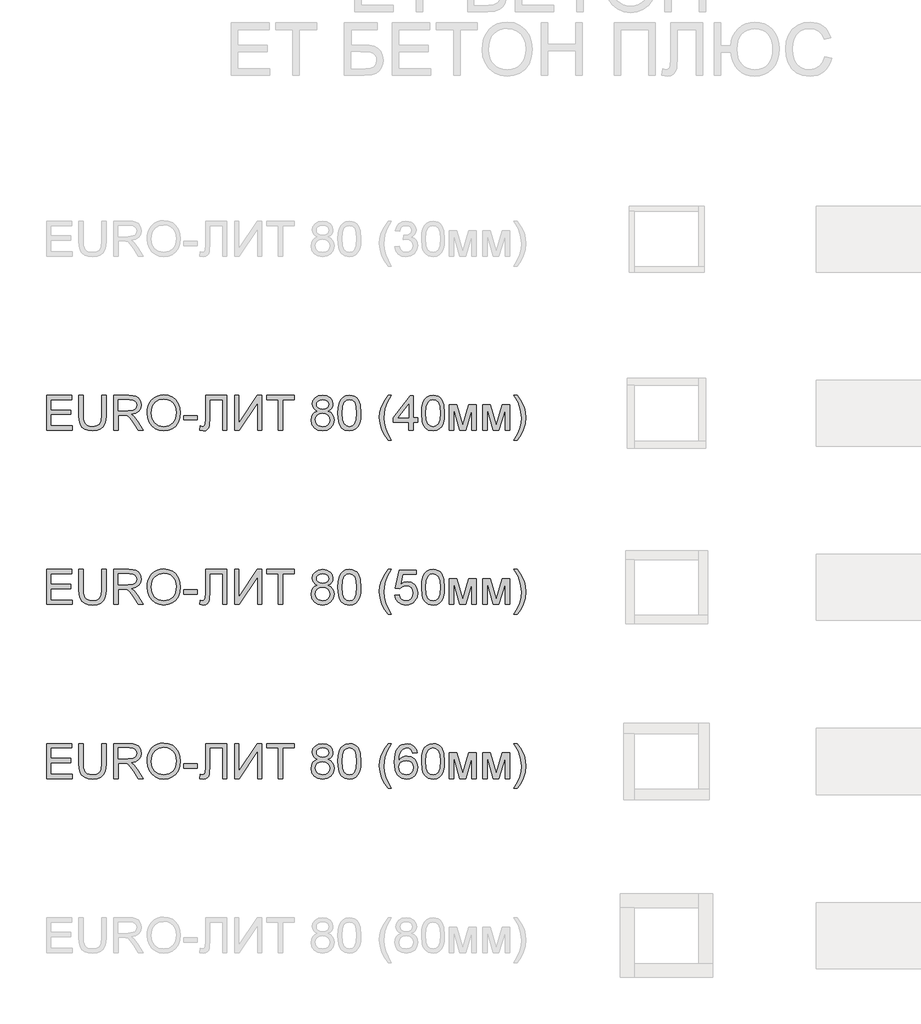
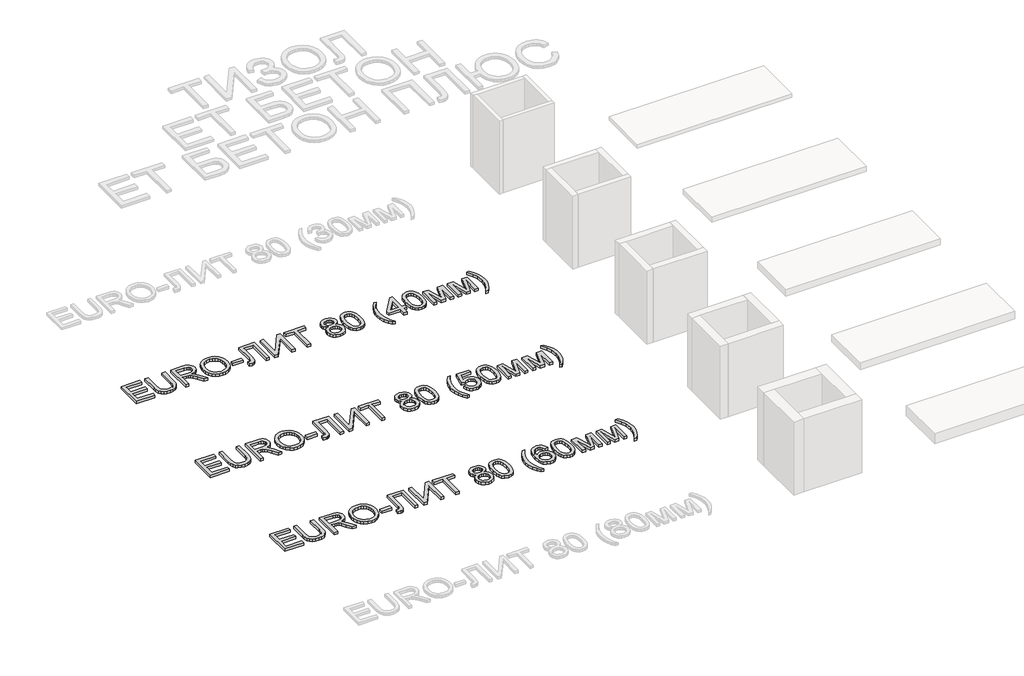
# One storey, part 20 of 35: 3 proxies.
"""IFC4 building model written with IfcOpenShell, lengths in millimetres."""

from ifc_helpers import new_model, si_unit, origin, origin_with_axes, place, context, project, spatial, polyline, outline, extrude, element, save

model = new_model("IFC4")

# Units and contexts
model_context = context("Model", 3, world=origin())
ifc_project = project(units=[si_unit("LENGTHUNIT", "METRE", prefix="MILLI")], contexts=[model_context])

# Site, building, storey
site = spatial("IfcSite", under=ifc_project)
building = spatial("IfcBuilding", under=site)
storey = spatial("IfcBuildingStorey", under=building, Name="Этаж 01", Elevation=0.0)

# Proxies
placement = place(None, origin())
element("IfcBuildingElementProxy", 1, Name="400 мм Arial", ObjectType="400 мм Arial", at=placement, inside=storey, context=model_context, shape_type="SweptSolid", body=[
    extrude(outline(polyline([(31509.8248691, -50230.4960856), (31509.8248691, -50029.5834653), (31654.2308149, -50029.5834653), (31654.2308149, -50054.6975429), (31534.9389466, -50054.6975429), (31534.9389466, -50114.343477), (31647.9522956, -50114.343477), (31647.9522956, -50139.4575546), (31534.9389466, -50139.4575546), (31534.9389466, -50205.3820081), (31657.3700746, -50205.3820081), (31657.3700746, -50230.4960856), (31509.8248691, -50230.4960856)])), origin_with_axes(), (0.0, 0.0, 1.0), 20.0),
    extrude(outline(polyline([(31826.890098, -50029.5834653), (31852.0041756, -50029.5834653), (31852.0041756, -50145.4908193), (31850.2996556, -50172.6343792), (31845.1860959, -50193.5362079), (31835.6334268, -50209.661702), (31820.6115786, -50222.4762582), (31800.0837633, -50230.8455735), (31774.0131926, -50233.6353453), (31748.5128389, -50231.2073242), (31728.126045, -50223.9232607), (31712.8466795, -50212.0345409), (31702.668611, -50195.7925508), (31696.948046, -50174.0078053), (31695.0411909, -50145.4908193), (31695.0411909, -50029.5834653), (31720.1552685, -50029.5834653), (31720.1552685, -50144.6079025), (31721.3938045, -50167.1774629), (31725.1094127, -50182.8921555), (31731.8416532, -50193.7753312), (31742.1300863, -50201.850341), (31755.5455164, -50206.8535361), (31771.6587478, -50208.5212678), (31797.202021, -50205.2225926), (31814.1859065, -50195.3265669), (31823.7140501, -50176.0495504), (31826.890098, -50144.6079025), (31826.890098, -50029.5834653)])), origin_with_axes(), (0.0, 0.0, 1.0), 20.0),
    extrude(outline(polyline([(31895.9538112, -50230.4960856), (31895.9538112, -50029.5834653), (31982.5287074, -50029.5834653), (32005.7972436, -50030.9384974), (32022.7259468, -50035.0035934), (32035.0990446, -50042.5083861), (32044.7007646, -50054.1825081), (32050.862788, -50068.6586646), (32052.9167959, -50084.5695609), (32049.5138874, -50104.3616122), (32039.305162, -50120.7691492), (32021.9840514, -50132.7988905), (31997.2439873, -50139.4575546), (32011.5178087, -50150.1997088), (32031.8739457, -50176.0495504), (32065.3757328, -50230.4960856), (32036.1904278, -50230.4960856), (32010.0462807, -50188.8518438), (31991.1616716, -50161.2852196), (31977.8933943, -50148.262197), (31965.9494922, -50143.4797311), (31951.3813652, -50142.5968143), (31921.0678888, -50142.5968143), (31921.0678888, -50230.4960856), (31895.9538112, -50230.4960856)]), holes=[polyline([(31921.0678888, -50117.4827367), (31977.2802576, -50117.4827367), (32005.9505278, -50113.9265441), (32015.3805696, -50109.3034937), (32022.2354375, -50102.5467277), (32027.8027183, -50085.5015286), (32025.1478366, -50073.2510582), (32017.1831914, -50063.379558), (32003.4795871, -50056.8680467), (31983.607828, -50054.6975429), (31921.0678888, -50054.6975429), (31921.0678888, -50117.4827367)])]), origin_with_axes(), (0.0, 0.0, 1.0), 20.0),
    extrude(outline(polyline([(32087.4486525, -50132.6885259), (32089.1225155, -50109.1226184), (32094.1441048, -50088.2606436), (32102.5134202, -50070.1026014), (32114.2304617, -50054.648492), (32128.5931879, -50042.3091167), (32144.8995574, -50033.4952772), (32163.14957, -50028.2069736), (32183.3432259, -50026.4442057), (32209.6958395, -50029.7551436), (32233.3261263, -50039.6879575), (32252.9464994, -50055.5436715), (32267.2693717, -50076.6233098), (32276.0249632, -50101.9090656), (32278.9434937, -50130.383132), (32275.871679, -50159.2373432), (32266.6562351, -50184.8787182), (32251.8060652, -50205.9951448), (32231.8300728, -50221.2745103), (32208.4021211, -50230.5451366), (32183.1960731, -50233.6353453), (32156.4387893, -50230.2201742), (32132.6736124, -50219.9746606), (32113.1022903, -50203.824641), (32098.9265707, -50182.6959517), (32090.318132, -50158.3850832), (32087.4486525, -50132.6885259)]), holes=[polyline([(32112.56273, -50132.9337805), (32117.5843192, -50164.3631656), (32132.6490869, -50188.3122835), (32155.2922237, -50203.4690217), (32183.0489203, -50208.5212678), (32211.210287, -50203.4199708), (32233.890212, -50188.1160798), (32242.6136138, -50176.8435623), (32248.8446151, -50163.4311979), (32253.8294162, -50130.1869283), (32251.6957006, -50107.9545931), (32245.2945539, -50088.7388902), (32234.7915229, -50073.0241976), (32220.3521546, -50061.2948933), (32202.9329421, -50053.9924357), (32183.4903787, -50051.5582832), (32156.4755775, -50056.2487786), (32133.5074783, -50070.3202649), (32124.3441509, -50081.2693528), (32117.7989171, -50095.3546347), (32112.56273, -50132.9337805)])]), origin_with_axes(), (0.0, 0.0, 1.0), 20.0),
    extrude(outline(polyline([(32297.7790518, -50170.8501515), (32297.7790518, -50145.736074), (32376.2605441, -50145.736074), (32376.2605441, -50170.8501515), (32297.7790518, -50170.8501515)])), origin_with_axes(), (0.0, 0.0, 1.0), 20.0),
    extrude(outline(polyline([(32423.3494395, -50029.5834653), (32545.7805675, -50029.5834653), (32545.7805675, -50230.4960856), (32520.66649, -50230.4960856), (32520.66649, -50054.6975429), (32448.4635171, -50054.6975429), (32448.4635171, -50157.2139922), (32445.5449866, -50202.9539869), (32441.0261694, -50215.8789077), (32433.3067789, -50225.5664669), (32422.7363029, -50231.6181257), (32409.6642293, -50233.6353453), (32388.8175829, -50230.4960856), (32391.9568426, -50205.3820081), (32403.9743211, -50208.5212678), (32412.4662638, -50206.835142), (32418.5179227, -50201.7767646), (32422.1415603, -50190.4643932), (32423.3494395, -50170.0162856), (32423.3494395, -50029.5834653)])), origin_with_axes(), (0.0, 0.0, 1.0), 20.0),
    extrude(outline(polyline([(32589.7302032, -50029.5834653), (32614.8442808, -50029.5834653), (32614.8442808, -50188.704691), (32720.0094804, -50029.5834653), (32746.6931878, -50029.5834653), (32746.6931878, -50230.4960856), (32721.5791103, -50230.4960856), (32721.5791103, -50071.8163184), (32616.6591653, -50230.4960856), (32589.7302032, -50230.4960856), (32589.7302032, -50029.5834653)])), origin_with_axes(), (0.0, 0.0, 1.0), 20.0),
    extrude(outline(polyline([(32840.8709786, -50230.4960856), (32840.8709786, -50054.6975429), (32774.9465251, -50054.6975429), (32774.9465251, -50029.5834653), (32931.9095097, -50029.5834653), (32931.9095097, -50054.6975429), (32865.9850561, -50054.6975429), (32865.9850561, -50230.4960856), (32840.8709786, -50230.4960856)])), origin_with_axes(), (0.0, 0.0, 1.0), 20.0),
    extrude(outline(polyline([(33065.8185559, -50119.8371815), (33052.372469, -50113.2153056), (33042.9362958, -50104.2389849), (33037.3628836, -50093.0921605), (33035.5050795, -50079.9587732), (33039.5517815, -50060.3261374), (33051.6918873, -50044.1025414), (33070.5642336, -50033.2132344), (33094.8076571, -50029.5834653), (33119.1982334, -50033.2990735), (33138.3158344, -50044.445898), (33150.6766695, -50060.9270113), (33154.7969478, -50080.6454863), (33152.9636692, -50093.3558092), (33147.4638334, -50104.3125613), (33138.2361267, -50113.2336997), (33125.2192354, -50119.8371815), (33140.6764106, -50127.8018267), (33151.9274682, -50139.531131), (33158.7884675, -50154.4610086), (33161.0754672, -50172.0273739), (33156.5382559, -50196.0378054), (33142.9266221, -50215.8789077), (33121.9082974, -50229.1962359), (33095.1510137, -50233.6353453), (33068.3937299, -50229.1778418), (33047.3754052, -50215.8053313), (33033.7637714, -50195.7741567), (33029.2265601, -50171.3406608), (33031.6055304, -50153.0937139), (33038.7424411, -50138.0841285), (33050.2694102, -50126.8269394), (33065.8185559, -50119.8371815)]), holes=[polyline([(33060.619157, -50080.6945372), (33062.8448431, -50091.6574207), (33069.5219013, -50100.4130122), (33080.4541279, -50106.1519713), (33095.4453193, -50108.0649577), (33110.0870227, -50106.164234), (33120.8537024, -50100.4620631), (33127.4755783, -50092.0007772), (33129.6828703, -50081.8227087), (33127.4020019, -50071.258364), (33120.5593968, -50062.5211667), (33109.6455643, -50056.6534488), (33095.1510137, -50054.6975429), (33080.5644925, -50056.6105293), (33069.6690541, -50062.3494884), (33062.8816313, -50070.7617233), (33060.619157, -50080.6945372)]), polyline([(33054.3406377, -50170.457744), (33058.5344924, -50189.3668786), (33064.3408966, -50197.4786766), (33073.3723995, -50203.5180727), (33095.3472174, -50208.5212678), (33112.4414674, -50205.8909115), (33125.2682863, -50197.9998427), (33133.2881138, -50186.0498093), (33135.9613897, -50171.242559), (33133.2022747, -50156.1839226), (33124.9249298, -50143.9702404), (33111.8038053, -50135.8768365), (33094.5133515, -50133.1790352), (33077.6582248, -50135.8400483), (33064.9601646, -50143.8230876), (33056.9955194, -50155.8037779), (33054.3406377, -50170.457744)])]), origin_with_axes(), (0.0, 0.0, 1.0), 20.0),
    extrude(outline(polyline([(33183.050285, -50131.6584563), (33184.8958264, -50099.4994385), (33190.4324504, -50073.8519321), (33199.6049748, -50054.3235295), (33212.3582173, -50040.5218233), (33228.7841484, -50032.3180548), (33248.9747386, -50029.5834653), (33264.4503078, -50031.2021461), (33278.3071963, -50036.0581885), (33289.8954792, -50043.96152), (33298.5652315, -50054.7220684), (33310.3374554, -50084.4469336), (33314.8991921, -50131.6584563), (33313.0720449, -50163.633533), (33307.5906031, -50189.2197258), (33298.473261, -50208.7665225), (33285.7384126, -50222.623411), (33269.2756933, -50230.8823617), (33248.9747386, -50233.6353453), (33222.8796424, -50228.8528794), (33203.0630656, -50214.5054816), (33194.3074741, -50199.3763345), (33188.0534802, -50180.525448), (33183.050285, -50131.6584563)]), holes=[polyline([(33208.1643626, -50131.6094053), (33211.1074185, -50171.1138003), (33219.9365864, -50193.9776663), (33233.0822364, -50204.8853674), (33248.9747386, -50208.5212678), (33264.8672408, -50204.8731047), (33278.0128907, -50193.9286153), (33286.8420586, -50171.0524866), (33289.7851146, -50131.6094053), (33286.9401605, -50092.9940586), (33278.4052982, -50069.952383), (33265.2841737, -50058.5112529), (33248.680433, -50054.6975429), (33232.9596091, -50058.0575318), (33220.3289939, -50068.1374984), (33211.2055204, -50092.6139139), (33208.1643626, -50131.6094053)])]), origin_with_axes(), (0.0, 0.0, 1.0), 20.0),
    extrude(outline(polyline([(33471.8621767, -50287.0027601), (33452.4012192, -50259.6936533), (33436.2021487, -50228.0925899), (33425.2760534, -50193.7324116), (33421.6340216, -50158.1459599), (33424.3563484, -50126.937304), (33432.5233287, -50097.0775487), (33448.734662, -50063.2569306), (33471.8621767, -50029.5834653), (33490.6977349, -50029.5834653), (33467.2023381, -50069.3637718), (33453.0756695, -50107.9178049), (33446.7480992, -50158.2931127), (33449.4949514, -50190.4889187), (33457.7355081, -50222.6724619), (33471.4697693, -50254.8437424), (33490.6977349, -50287.0027601), (33471.8621767, -50287.0027601)])), origin_with_axes(), (0.0, 0.0, 1.0), 20.0),
    extrude(outline(polyline([(33591.154045, -50230.4960856), (33591.154045, -50183.4071903), (33500.1155139, -50183.4071903), (33500.1155139, -50158.2931127), (33597.4325644, -50032.722725), (33616.2681226, -50032.722725), (33616.2681226, -50158.2931127), (33641.3822001, -50158.2931127), (33641.3822001, -50183.4071903), (33616.2681226, -50183.4071903), (33616.2681226, -50230.4960856), (33591.154045, -50230.4960856)]), holes=[polyline([(33591.154045, -50158.2931127), (33591.154045, -50080.6945372), (33531.0176015, -50158.2931127), (33591.154045, -50158.2931127)])]), origin_with_axes(), (0.0, 0.0, 1.0), 20.0),
    extrude(outline(polyline([(33663.3570179, -50131.6584563), (33665.2025593, -50099.4994385), (33670.7391833, -50073.8519321), (33679.9117077, -50054.3235295), (33692.6649502, -50040.5218233), (33709.0908813, -50032.3180548), (33729.2814715, -50029.5834653), (33744.7570407, -50031.2021461), (33758.6139292, -50036.0581885), (33770.2022121, -50043.96152), (33778.8719644, -50054.7220684), (33790.6441883, -50084.4469336), (33795.205925, -50131.6584563), (33793.3787778, -50163.633533), (33787.897336, -50189.2197258), (33778.7799939, -50208.7665225), (33766.0451455, -50222.623411), (33749.5824262, -50230.8823617), (33729.2814715, -50233.6353453), (33703.1863753, -50228.8528794), (33683.3697985, -50214.5054816), (33674.614207, -50199.3763345), (33668.3602131, -50180.525448), (33663.3570179, -50131.6584563)]), holes=[polyline([(33688.4710955, -50131.6094053), (33691.4141514, -50171.1138003), (33700.2433193, -50193.9776663), (33713.3889693, -50204.8853674), (33729.2814715, -50208.5212678), (33745.1739737, -50204.8731047), (33758.3196236, -50193.9286153), (33767.1487915, -50171.0524866), (33770.0918475, -50131.6094053), (33767.2468934, -50092.9940586), (33758.7120311, -50069.952383), (33745.5909066, -50058.5112529), (33728.9871659, -50054.6975429), (33713.266342, -50058.0575318), (33700.6357268, -50068.1374984), (33691.5122533, -50092.6139139), (33688.4710955, -50131.6094053)])]), origin_with_axes(), (0.0, 0.0, 1.0), 20.0),
    extrude(outline(polyline([(33823.4592622, -50082.9508801), (33866.6731339, -50082.9508801), (33899.9787172, -50201.065526), (33935.884, -50082.9508801), (33977.2829872, -50082.9508801), (33977.2829872, -50230.4960856), (33952.1689096, -50230.4960856), (33952.1689096, -50111.6947267), (33916.0674232, -50230.4960856), (33883.1051964, -50230.4960856), (33848.5733398, -50106.0048185), (33848.5733398, -50230.4960856), (33823.4592622, -50230.4960856), (33823.4592622, -50082.9508801)])), origin_with_axes(), (0.0, 0.0, 1.0), 20.0),
    extrude(outline(polyline([(34014.9541035, -50082.9508801), (34058.1679752, -50082.9508801), (34091.4735585, -50201.065526), (34127.3788412, -50082.9508801), (34168.7778284, -50082.9508801), (34168.7778284, -50230.4960856), (34143.6637508, -50230.4960856), (34143.6637508, -50111.6947267), (34107.5622644, -50230.4960856), (34074.6000376, -50230.4960856), (34040.068181, -50106.0048185), (34040.068181, -50230.4960856), (34014.9541035, -50230.4960856), (34014.9541035, -50082.9508801)])), origin_with_axes(), (0.0, 0.0, 1.0), 20.0),
    extrude(outline(polyline([(34212.7274641, -50287.0027601), (34193.8919059, -50287.0027601), (34213.1198715, -50254.8437424), (34226.8541327, -50222.6724619), (34235.0946894, -50190.4889187), (34237.8415416, -50158.2931127), (34231.5139713, -50108.3592633), (34217.5344555, -50069.7561792), (34193.8919059, -50029.5834653), (34212.7274641, -50029.5834653), (34235.8549788, -50063.2569306), (34252.0663121, -50097.0775487), (34260.2332924, -50126.937304), (34262.9556191, -50158.1459599), (34259.2951933, -50193.7324116), (34248.3139157, -50228.0925899), (34232.0964511, -50259.6936533), (34212.7274641, -50287.0027601)])), origin_with_axes(), (0.0, 0.0, 1.0), 20.0),
])
element("IfcBuildingElementProxy", 2, Name="400 мм Arial", ObjectType="400 мм Arial", at=placement, inside=storey, context=model_context, shape_type="SweptSolid", body=[
    extrude(outline(polyline([(31509.8248691, -51230.4960856), (31509.8248691, -51029.5834653), (31654.2308149, -51029.5834653), (31654.2308149, -51054.6975429), (31534.9389466, -51054.6975429), (31534.9389466, -51114.343477), (31647.9522956, -51114.343477), (31647.9522956, -51139.4575546), (31534.9389466, -51139.4575546), (31534.9389466, -51205.3820081), (31657.3700746, -51205.3820081), (31657.3700746, -51230.4960856), (31509.8248691, -51230.4960856)])), origin_with_axes(), (0.0, 0.0, 1.0), 20.0),
    extrude(outline(polyline([(31826.890098, -51029.5834653), (31852.0041756, -51029.5834653), (31852.0041756, -51145.4908193), (31850.2996556, -51172.6343792), (31845.1860959, -51193.5362079), (31835.6334268, -51209.661702), (31820.6115786, -51222.4762582), (31800.0837633, -51230.8455735), (31774.0131926, -51233.6353453), (31748.5128389, -51231.2073242), (31728.126045, -51223.9232607), (31712.8466795, -51212.0345409), (31702.668611, -51195.7925508), (31696.948046, -51174.0078053), (31695.0411909, -51145.4908193), (31695.0411909, -51029.5834653), (31720.1552685, -51029.5834653), (31720.1552685, -51144.6079025), (31721.3938045, -51167.1774629), (31725.1094127, -51182.8921555), (31731.8416532, -51193.7753312), (31742.1300863, -51201.850341), (31755.5455164, -51206.8535361), (31771.6587478, -51208.5212678), (31797.202021, -51205.2225926), (31814.1859065, -51195.3265669), (31823.7140501, -51176.0495504), (31826.890098, -51144.6079025), (31826.890098, -51029.5834653)])), origin_with_axes(), (0.0, 0.0, 1.0), 20.0),
    extrude(outline(polyline([(31895.9538112, -51230.4960856), (31895.9538112, -51029.5834653), (31982.5287074, -51029.5834653), (32005.7972436, -51030.9384974), (32022.7259468, -51035.0035934), (32035.0990446, -51042.5083861), (32044.7007646, -51054.1825081), (32050.862788, -51068.6586646), (32052.9167959, -51084.5695609), (32049.5138874, -51104.3616122), (32039.305162, -51120.7691492), (32021.9840514, -51132.7988905), (31997.2439873, -51139.4575546), (32011.5178087, -51150.1997088), (32031.8739457, -51176.0495504), (32065.3757328, -51230.4960856), (32036.1904278, -51230.4960856), (32010.0462807, -51188.8518438), (31991.1616716, -51161.2852196), (31977.8933943, -51148.262197), (31965.9494922, -51143.4797311), (31951.3813652, -51142.5968143), (31921.0678888, -51142.5968143), (31921.0678888, -51230.4960856), (31895.9538112, -51230.4960856)]), holes=[polyline([(31921.0678888, -51117.4827367), (31977.2802576, -51117.4827367), (32005.9505278, -51113.9265441), (32015.3805696, -51109.3034937), (32022.2354375, -51102.5467277), (32027.8027183, -51085.5015286), (32025.1478366, -51073.2510582), (32017.1831914, -51063.379558), (32003.4795871, -51056.8680467), (31983.607828, -51054.6975429), (31921.0678888, -51054.6975429), (31921.0678888, -51117.4827367)])]), origin_with_axes(), (0.0, 0.0, 1.0), 20.0),
    extrude(outline(polyline([(32087.4486525, -51132.6885259), (32089.1225155, -51109.1226184), (32094.1441048, -51088.2606436), (32102.5134202, -51070.1026014), (32114.2304617, -51054.648492), (32128.5931879, -51042.3091167), (32144.8995574, -51033.4952772), (32163.14957, -51028.2069736), (32183.3432259, -51026.4442057), (32209.6958395, -51029.7551436), (32233.3261263, -51039.6879575), (32252.9464994, -51055.5436715), (32267.2693717, -51076.6233098), (32276.0249632, -51101.9090656), (32278.9434937, -51130.383132), (32275.871679, -51159.2373432), (32266.6562351, -51184.8787182), (32251.8060652, -51205.9951448), (32231.8300728, -51221.2745103), (32208.4021211, -51230.5451366), (32183.1960731, -51233.6353453), (32156.4387893, -51230.2201742), (32132.6736124, -51219.9746606), (32113.1022903, -51203.824641), (32098.9265707, -51182.6959517), (32090.318132, -51158.3850832), (32087.4486525, -51132.6885259)]), holes=[polyline([(32112.56273, -51132.9337805), (32117.5843192, -51164.3631656), (32132.6490869, -51188.3122835), (32155.2922237, -51203.4690217), (32183.0489203, -51208.5212678), (32211.210287, -51203.4199708), (32233.890212, -51188.1160798), (32242.6136138, -51176.8435623), (32248.8446151, -51163.4311979), (32253.8294162, -51130.1869283), (32251.6957006, -51107.9545931), (32245.2945539, -51088.7388902), (32234.7915229, -51073.0241976), (32220.3521546, -51061.2948933), (32202.9329421, -51053.9924357), (32183.4903787, -51051.5582832), (32156.4755775, -51056.2487786), (32133.5074783, -51070.3202649), (32124.3441509, -51081.2693528), (32117.7989171, -51095.3546347), (32112.56273, -51132.9337805)])]), origin_with_axes(), (0.0, 0.0, 1.0), 20.0),
    extrude(outline(polyline([(32297.7790518, -51170.8501515), (32297.7790518, -51145.736074), (32376.2605441, -51145.736074), (32376.2605441, -51170.8501515), (32297.7790518, -51170.8501515)])), origin_with_axes(), (0.0, 0.0, 1.0), 20.0),
    extrude(outline(polyline([(32423.3494395, -51029.5834653), (32545.7805675, -51029.5834653), (32545.7805675, -51230.4960856), (32520.66649, -51230.4960856), (32520.66649, -51054.6975429), (32448.4635171, -51054.6975429), (32448.4635171, -51157.2139922), (32445.5449866, -51202.9539869), (32441.0261694, -51215.8789077), (32433.3067789, -51225.5664669), (32422.7363029, -51231.6181257), (32409.6642293, -51233.6353453), (32388.8175829, -51230.4960856), (32391.9568426, -51205.3820081), (32403.9743211, -51208.5212678), (32412.4662638, -51206.835142), (32418.5179227, -51201.7767646), (32422.1415603, -51190.4643932), (32423.3494395, -51170.0162856), (32423.3494395, -51029.5834653)])), origin_with_axes(), (0.0, 0.0, 1.0), 20.0),
    extrude(outline(polyline([(32589.7302032, -51029.5834653), (32614.8442808, -51029.5834653), (32614.8442808, -51188.704691), (32720.0094804, -51029.5834653), (32746.6931878, -51029.5834653), (32746.6931878, -51230.4960856), (32721.5791103, -51230.4960856), (32721.5791103, -51071.8163184), (32616.6591653, -51230.4960856), (32589.7302032, -51230.4960856), (32589.7302032, -51029.5834653)])), origin_with_axes(), (0.0, 0.0, 1.0), 20.0),
    extrude(outline(polyline([(32840.8709786, -51230.4960856), (32840.8709786, -51054.6975429), (32774.9465251, -51054.6975429), (32774.9465251, -51029.5834653), (32931.9095097, -51029.5834653), (32931.9095097, -51054.6975429), (32865.9850561, -51054.6975429), (32865.9850561, -51230.4960856), (32840.8709786, -51230.4960856)])), origin_with_axes(), (0.0, 0.0, 1.0), 20.0),
    extrude(outline(polyline([(33065.8185559, -51119.8371815), (33052.372469, -51113.2153056), (33042.9362958, -51104.2389849), (33037.3628836, -51093.0921605), (33035.5050795, -51079.9587732), (33039.5517815, -51060.3261374), (33051.6918873, -51044.1025414), (33070.5642336, -51033.2132344), (33094.8076571, -51029.5834653), (33119.1982334, -51033.2990735), (33138.3158344, -51044.445898), (33150.6766695, -51060.9270113), (33154.7969478, -51080.6454863), (33152.9636692, -51093.3558092), (33147.4638334, -51104.3125613), (33138.2361267, -51113.2336997), (33125.2192354, -51119.8371815), (33140.6764106, -51127.8018267), (33151.9274682, -51139.531131), (33158.7884675, -51154.4610086), (33161.0754672, -51172.0273739), (33156.5382559, -51196.0378054), (33142.9266221, -51215.8789077), (33121.9082974, -51229.1962359), (33095.1510137, -51233.6353453), (33068.3937299, -51229.1778418), (33047.3754052, -51215.8053313), (33033.7637714, -51195.7741567), (33029.2265601, -51171.3406608), (33031.6055304, -51153.0937139), (33038.7424411, -51138.0841285), (33050.2694102, -51126.8269394), (33065.8185559, -51119.8371815)]), holes=[polyline([(33060.619157, -51080.6945372), (33062.8448431, -51091.6574207), (33069.5219013, -51100.4130122), (33080.4541279, -51106.1519713), (33095.4453193, -51108.0649577), (33110.0870227, -51106.164234), (33120.8537024, -51100.4620631), (33127.4755783, -51092.0007772), (33129.6828703, -51081.8227087), (33127.4020019, -51071.258364), (33120.5593968, -51062.5211667), (33109.6455643, -51056.6534488), (33095.1510137, -51054.6975429), (33080.5644925, -51056.6105293), (33069.6690541, -51062.3494884), (33062.8816313, -51070.7617233), (33060.619157, -51080.6945372)]), polyline([(33054.3406377, -51170.457744), (33058.5344924, -51189.3668786), (33064.3408966, -51197.4786766), (33073.3723995, -51203.5180727), (33095.3472174, -51208.5212678), (33112.4414674, -51205.8909115), (33125.2682863, -51197.9998427), (33133.2881138, -51186.0498093), (33135.9613897, -51171.242559), (33133.2022747, -51156.1839226), (33124.9249298, -51143.9702404), (33111.8038053, -51135.8768365), (33094.5133515, -51133.1790352), (33077.6582248, -51135.8400483), (33064.9601646, -51143.8230876), (33056.9955194, -51155.8037779), (33054.3406377, -51170.457744)])]), origin_with_axes(), (0.0, 0.0, 1.0), 20.0),
    extrude(outline(polyline([(33183.050285, -51131.6584563), (33184.8958264, -51099.4994385), (33190.4324504, -51073.8519321), (33199.6049748, -51054.3235295), (33212.3582173, -51040.5218233), (33228.7841484, -51032.3180548), (33248.9747386, -51029.5834653), (33264.4503078, -51031.2021461), (33278.3071963, -51036.0581885), (33289.8954792, -51043.96152), (33298.5652315, -51054.7220684), (33310.3374554, -51084.4469336), (33314.8991921, -51131.6584563), (33313.0720449, -51163.633533), (33307.5906031, -51189.2197258), (33298.473261, -51208.7665225), (33285.7384126, -51222.623411), (33269.2756933, -51230.8823617), (33248.9747386, -51233.6353453), (33222.8796424, -51228.8528794), (33203.0630656, -51214.5054816), (33194.3074741, -51199.3763345), (33188.0534802, -51180.525448), (33183.050285, -51131.6584563)]), holes=[polyline([(33208.1643626, -51131.6094053), (33211.1074185, -51171.1138003), (33219.9365864, -51193.9776663), (33233.0822364, -51204.8853674), (33248.9747386, -51208.5212678), (33264.8672408, -51204.8731047), (33278.0128907, -51193.9286153), (33286.8420586, -51171.0524866), (33289.7851146, -51131.6094053), (33286.9401605, -51092.9940586), (33278.4052982, -51069.952383), (33265.2841737, -51058.5112529), (33248.680433, -51054.6975429), (33232.9596091, -51058.0575318), (33220.3289939, -51068.1374984), (33211.2055204, -51092.6139139), (33208.1643626, -51131.6094053)])]), origin_with_axes(), (0.0, 0.0, 1.0), 20.0),
    extrude(outline(polyline([(33471.8621767, -51287.0027601), (33452.4012192, -51259.6936533), (33436.2021487, -51228.0925899), (33425.2760534, -51193.7324116), (33421.6340216, -51158.1459599), (33424.3563484, -51126.937304), (33432.5233287, -51097.0775487), (33448.734662, -51063.2569306), (33471.8621767, -51029.5834653), (33490.6977349, -51029.5834653), (33467.2023381, -51069.3637718), (33453.0756695, -51107.9178049), (33446.7480992, -51158.2931127), (33449.4949514, -51190.4889187), (33457.7355081, -51222.6724619), (33471.4697693, -51254.8437424), (33490.6977349, -51287.0027601), (33471.8621767, -51287.0027601)])), origin_with_axes(), (0.0, 0.0, 1.0), 20.0),
    extrude(outline(polyline([(33509.533293, -51177.1286709), (33534.6473706, -51173.9894112), (33539.2581582, -51189.0664416), (33547.3025112, -51199.8637782), (33558.7436412, -51206.3568954), (33573.5447602, -51208.5212678), (33591.5464525, -51205.5107668), (33605.035459, -51196.4792638), (33613.4599567, -51182.4690912), (33616.2681226, -51164.5225812), (33613.6377663, -51147.6245349), (33605.7466975, -51134.6996141), (33592.5336025, -51126.4958456), (33573.9371676, -51123.7612561), (33551.8887734, -51128.1267891), (33537.7866303, -51139.4575546), (33512.6725527, -51136.3182949), (33534.6473706, -51032.722725), (33631.964421, -51032.722725), (33631.964421, -51057.8368026), (33554.9544567, -51057.8368026), (33544.2123024, -51113.1662547), (33562.1526811, -51102.2769476), (33580.951451, -51098.6471786), (33604.4161909, -51103.1476017), (33623.8955426, -51116.6488709), (33637.0105357, -51137.2257371), (33641.3822001, -51162.9529513), (33637.4458627, -51188.0670289), (33625.6368507, -51209.5513374), (33615.2012648, -51220.0880909), (33603.0243707, -51227.6143434), (33589.1061686, -51232.1300948), (33573.4466583, -51233.6353453), (33548.7801705, -51229.766453), (33529.1291406, -51218.1597761), (33515.6585282, -51200.1642151), (33509.533293, -51177.1286709)])), origin_with_axes(), (0.0, 0.0, 1.0), 20.0),
    extrude(outline(polyline([(33663.3570179, -51131.6584563), (33665.2025593, -51099.4994385), (33670.7391833, -51073.8519321), (33679.9117077, -51054.3235295), (33692.6649502, -51040.5218233), (33709.0908813, -51032.3180548), (33729.2814715, -51029.5834653), (33744.7570407, -51031.2021461), (33758.6139292, -51036.0581885), (33770.2022121, -51043.96152), (33778.8719644, -51054.7220684), (33790.6441883, -51084.4469336), (33795.205925, -51131.6584563), (33793.3787778, -51163.633533), (33787.897336, -51189.2197258), (33778.7799939, -51208.7665225), (33766.0451455, -51222.623411), (33749.5824262, -51230.8823617), (33729.2814715, -51233.6353453), (33703.1863753, -51228.8528794), (33683.3697985, -51214.5054816), (33674.614207, -51199.3763345), (33668.3602131, -51180.525448), (33663.3570179, -51131.6584563)]), holes=[polyline([(33688.4710955, -51131.6094053), (33691.4141514, -51171.1138003), (33700.2433193, -51193.9776663), (33713.3889693, -51204.8853674), (33729.2814715, -51208.5212678), (33745.1739737, -51204.8731047), (33758.3196236, -51193.9286153), (33767.1487915, -51171.0524866), (33770.0918475, -51131.6094053), (33767.2468934, -51092.9940586), (33758.7120311, -51069.952383), (33745.5909066, -51058.5112529), (33728.9871659, -51054.6975429), (33713.266342, -51058.0575318), (33700.6357268, -51068.1374984), (33691.5122533, -51092.6139139), (33688.4710955, -51131.6094053)])]), origin_with_axes(), (0.0, 0.0, 1.0), 20.0),
    extrude(outline(polyline([(33823.4592622, -51082.9508801), (33866.6731339, -51082.9508801), (33899.9787172, -51201.065526), (33935.884, -51082.9508801), (33977.2829872, -51082.9508801), (33977.2829872, -51230.4960856), (33952.1689096, -51230.4960856), (33952.1689096, -51111.6947267), (33916.0674232, -51230.4960856), (33883.1051964, -51230.4960856), (33848.5733398, -51106.0048185), (33848.5733398, -51230.4960856), (33823.4592622, -51230.4960856), (33823.4592622, -51082.9508801)])), origin_with_axes(), (0.0, 0.0, 1.0), 20.0),
    extrude(outline(polyline([(34014.9541035, -51082.9508801), (34058.1679752, -51082.9508801), (34091.4735585, -51201.065526), (34127.3788412, -51082.9508801), (34168.7778284, -51082.9508801), (34168.7778284, -51230.4960856), (34143.6637508, -51230.4960856), (34143.6637508, -51111.6947267), (34107.5622644, -51230.4960856), (34074.6000376, -51230.4960856), (34040.068181, -51106.0048185), (34040.068181, -51230.4960856), (34014.9541035, -51230.4960856), (34014.9541035, -51082.9508801)])), origin_with_axes(), (0.0, 0.0, 1.0), 20.0),
    extrude(outline(polyline([(34212.7274641, -51287.0027601), (34193.8919059, -51287.0027601), (34213.1198715, -51254.8437424), (34226.8541327, -51222.6724619), (34235.0946894, -51190.4889187), (34237.8415416, -51158.2931127), (34231.5139713, -51108.3592633), (34217.5344555, -51069.7561792), (34193.8919059, -51029.5834653), (34212.7274641, -51029.5834653), (34235.8549788, -51063.2569306), (34252.0663121, -51097.0775487), (34260.2332924, -51126.937304), (34262.9556191, -51158.1459599), (34259.2951933, -51193.7324116), (34248.3139157, -51228.0925899), (34232.0964511, -51259.6936533), (34212.7274641, -51287.0027601)])), origin_with_axes(), (0.0, 0.0, 1.0), 20.0),
])
element("IfcBuildingElementProxy", 3, Name="400 мм Arial", ObjectType="400 мм Arial", at=placement, inside=storey, context=model_context, shape_type="SweptSolid", body=[
    extrude(outline(polyline([(31509.8248691, -52230.4960856), (31509.8248691, -52029.5834653), (31654.2308149, -52029.5834653), (31654.2308149, -52054.6975429), (31534.9389466, -52054.6975429), (31534.9389466, -52114.343477), (31647.9522956, -52114.343477), (31647.9522956, -52139.4575546), (31534.9389466, -52139.4575546), (31534.9389466, -52205.3820081), (31657.3700746, -52205.3820081), (31657.3700746, -52230.4960856), (31509.8248691, -52230.4960856)])), origin_with_axes(), (0.0, 0.0, 1.0), 20.0),
    extrude(outline(polyline([(31826.890098, -52029.5834653), (31852.0041756, -52029.5834653), (31852.0041756, -52145.4908193), (31850.2996556, -52172.6343792), (31845.1860959, -52193.5362079), (31835.6334268, -52209.661702), (31820.6115786, -52222.4762582), (31800.0837633, -52230.8455735), (31774.0131926, -52233.6353453), (31748.5128389, -52231.2073242), (31728.126045, -52223.9232607), (31712.8466795, -52212.0345409), (31702.668611, -52195.7925508), (31696.948046, -52174.0078053), (31695.0411909, -52145.4908193), (31695.0411909, -52029.5834653), (31720.1552685, -52029.5834653), (31720.1552685, -52144.6079025), (31721.3938045, -52167.1774629), (31725.1094127, -52182.8921555), (31731.8416532, -52193.7753312), (31742.1300863, -52201.850341), (31755.5455164, -52206.8535361), (31771.6587478, -52208.5212678), (31797.202021, -52205.2225926), (31814.1859065, -52195.3265669), (31823.7140501, -52176.0495504), (31826.890098, -52144.6079025), (31826.890098, -52029.5834653)])), origin_with_axes(), (0.0, 0.0, 1.0), 20.0),
    extrude(outline(polyline([(31895.9538112, -52230.4960856), (31895.9538112, -52029.5834653), (31982.5287074, -52029.5834653), (32005.7972436, -52030.9384974), (32022.7259468, -52035.0035934), (32035.0990446, -52042.5083861), (32044.7007646, -52054.1825081), (32050.862788, -52068.6586646), (32052.9167959, -52084.5695609), (32049.5138874, -52104.3616122), (32039.305162, -52120.7691492), (32021.9840514, -52132.7988905), (31997.2439873, -52139.4575546), (32011.5178087, -52150.1997088), (32031.8739457, -52176.0495504), (32065.3757328, -52230.4960856), (32036.1904278, -52230.4960856), (32010.0462807, -52188.8518438), (31991.1616716, -52161.2852196), (31977.8933943, -52148.262197), (31965.9494922, -52143.4797311), (31951.3813652, -52142.5968143), (31921.0678888, -52142.5968143), (31921.0678888, -52230.4960856), (31895.9538112, -52230.4960856)]), holes=[polyline([(31921.0678888, -52117.4827367), (31977.2802576, -52117.4827367), (32005.9505278, -52113.9265441), (32015.3805696, -52109.3034937), (32022.2354375, -52102.5467277), (32027.8027183, -52085.5015286), (32025.1478366, -52073.2510582), (32017.1831914, -52063.379558), (32003.4795871, -52056.8680467), (31983.607828, -52054.6975429), (31921.0678888, -52054.6975429), (31921.0678888, -52117.4827367)])]), origin_with_axes(), (0.0, 0.0, 1.0), 20.0),
    extrude(outline(polyline([(32087.4486525, -52132.6885259), (32089.1225155, -52109.1226184), (32094.1441048, -52088.2606436), (32102.5134202, -52070.1026014), (32114.2304617, -52054.648492), (32128.5931879, -52042.3091167), (32144.8995574, -52033.4952772), (32163.14957, -52028.2069736), (32183.3432259, -52026.4442057), (32209.6958395, -52029.7551436), (32233.3261263, -52039.6879575), (32252.9464994, -52055.5436715), (32267.2693717, -52076.6233098), (32276.0249632, -52101.9090656), (32278.9434937, -52130.383132), (32275.871679, -52159.2373432), (32266.6562351, -52184.8787182), (32251.8060652, -52205.9951448), (32231.8300728, -52221.2745103), (32208.4021211, -52230.5451366), (32183.1960731, -52233.6353453), (32156.4387893, -52230.2201742), (32132.6736124, -52219.9746606), (32113.1022903, -52203.824641), (32098.9265707, -52182.6959517), (32090.318132, -52158.3850832), (32087.4486525, -52132.6885259)]), holes=[polyline([(32112.56273, -52132.9337805), (32117.5843192, -52164.3631656), (32132.6490869, -52188.3122835), (32155.2922237, -52203.4690217), (32183.0489203, -52208.5212678), (32211.210287, -52203.4199708), (32233.890212, -52188.1160798), (32242.6136138, -52176.8435623), (32248.8446151, -52163.4311979), (32253.8294162, -52130.1869283), (32251.6957006, -52107.9545931), (32245.2945539, -52088.7388902), (32234.7915229, -52073.0241976), (32220.3521546, -52061.2948933), (32202.9329421, -52053.9924357), (32183.4903787, -52051.5582832), (32156.4755775, -52056.2487786), (32133.5074783, -52070.3202649), (32124.3441509, -52081.2693528), (32117.7989171, -52095.3546347), (32112.56273, -52132.9337805)])]), origin_with_axes(), (0.0, 0.0, 1.0), 20.0),
    extrude(outline(polyline([(32297.7790518, -52170.8501515), (32297.7790518, -52145.736074), (32376.2605441, -52145.736074), (32376.2605441, -52170.8501515), (32297.7790518, -52170.8501515)])), origin_with_axes(), (0.0, 0.0, 1.0), 20.0),
    extrude(outline(polyline([(32423.3494395, -52029.5834653), (32545.7805675, -52029.5834653), (32545.7805675, -52230.4960856), (32520.66649, -52230.4960856), (32520.66649, -52054.6975429), (32448.4635171, -52054.6975429), (32448.4635171, -52157.2139922), (32445.5449866, -52202.9539869), (32441.0261694, -52215.8789077), (32433.3067789, -52225.5664669), (32422.7363029, -52231.6181257), (32409.6642293, -52233.6353453), (32388.8175829, -52230.4960856), (32391.9568426, -52205.3820081), (32403.9743211, -52208.5212678), (32412.4662638, -52206.835142), (32418.5179227, -52201.7767646), (32422.1415603, -52190.4643932), (32423.3494395, -52170.0162856), (32423.3494395, -52029.5834653)])), origin_with_axes(), (0.0, 0.0, 1.0), 20.0),
    extrude(outline(polyline([(32589.7302032, -52029.5834653), (32614.8442808, -52029.5834653), (32614.8442808, -52188.704691), (32720.0094804, -52029.5834653), (32746.6931878, -52029.5834653), (32746.6931878, -52230.4960856), (32721.5791103, -52230.4960856), (32721.5791103, -52071.8163184), (32616.6591653, -52230.4960856), (32589.7302032, -52230.4960856), (32589.7302032, -52029.5834653)])), origin_with_axes(), (0.0, 0.0, 1.0), 20.0),
    extrude(outline(polyline([(32840.8709786, -52230.4960856), (32840.8709786, -52054.6975429), (32774.9465251, -52054.6975429), (32774.9465251, -52029.5834653), (32931.9095097, -52029.5834653), (32931.9095097, -52054.6975429), (32865.9850561, -52054.6975429), (32865.9850561, -52230.4960856), (32840.8709786, -52230.4960856)])), origin_with_axes(), (0.0, 0.0, 1.0), 20.0),
    extrude(outline(polyline([(33065.8185559, -52119.8371815), (33052.372469, -52113.2153056), (33042.9362958, -52104.2389849), (33037.3628836, -52093.0921605), (33035.5050795, -52079.9587732), (33039.5517815, -52060.3261374), (33051.6918873, -52044.1025414), (33070.5642336, -52033.2132344), (33094.8076571, -52029.5834653), (33119.1982334, -52033.2990735), (33138.3158344, -52044.445898), (33150.6766695, -52060.9270113), (33154.7969478, -52080.6454863), (33152.9636692, -52093.3558092), (33147.4638334, -52104.3125613), (33138.2361267, -52113.2336997), (33125.2192354, -52119.8371815), (33140.6764106, -52127.8018267), (33151.9274682, -52139.531131), (33158.7884675, -52154.4610086), (33161.0754672, -52172.0273739), (33156.5382559, -52196.0378054), (33142.9266221, -52215.8789077), (33121.9082974, -52229.1962359), (33095.1510137, -52233.6353453), (33068.3937299, -52229.1778418), (33047.3754052, -52215.8053313), (33033.7637714, -52195.7741567), (33029.2265601, -52171.3406608), (33031.6055304, -52153.0937139), (33038.7424411, -52138.0841285), (33050.2694102, -52126.8269394), (33065.8185559, -52119.8371815)]), holes=[polyline([(33060.619157, -52080.6945372), (33062.8448431, -52091.6574207), (33069.5219013, -52100.4130122), (33080.4541279, -52106.1519713), (33095.4453193, -52108.0649577), (33110.0870227, -52106.164234), (33120.8537024, -52100.4620631), (33127.4755783, -52092.0007772), (33129.6828703, -52081.8227087), (33127.4020019, -52071.258364), (33120.5593968, -52062.5211667), (33109.6455643, -52056.6534488), (33095.1510137, -52054.6975429), (33080.5644925, -52056.6105293), (33069.6690541, -52062.3494884), (33062.8816313, -52070.7617233), (33060.619157, -52080.6945372)]), polyline([(33054.3406377, -52170.457744), (33058.5344924, -52189.3668786), (33064.3408966, -52197.4786766), (33073.3723995, -52203.5180727), (33095.3472174, -52208.5212678), (33112.4414674, -52205.8909115), (33125.2682863, -52197.9998427), (33133.2881138, -52186.0498093), (33135.9613897, -52171.242559), (33133.2022747, -52156.1839226), (33124.9249298, -52143.9702404), (33111.8038053, -52135.8768365), (33094.5133515, -52133.1790352), (33077.6582248, -52135.8400483), (33064.9601646, -52143.8230876), (33056.9955194, -52155.8037779), (33054.3406377, -52170.457744)])]), origin_with_axes(), (0.0, 0.0, 1.0), 20.0),
    extrude(outline(polyline([(33183.050285, -52131.6584563), (33184.8958264, -52099.4994385), (33190.4324504, -52073.8519321), (33199.6049748, -52054.3235295), (33212.3582173, -52040.5218233), (33228.7841484, -52032.3180548), (33248.9747386, -52029.5834653), (33264.4503078, -52031.2021461), (33278.3071963, -52036.0581885), (33289.8954792, -52043.96152), (33298.5652315, -52054.7220684), (33310.3374554, -52084.4469336), (33314.8991921, -52131.6584563), (33313.0720449, -52163.633533), (33307.5906031, -52189.2197258), (33298.473261, -52208.7665225), (33285.7384126, -52222.623411), (33269.2756933, -52230.8823617), (33248.9747386, -52233.6353453), (33222.8796424, -52228.8528794), (33203.0630656, -52214.5054816), (33194.3074741, -52199.3763345), (33188.0534802, -52180.525448), (33183.050285, -52131.6584563)]), holes=[polyline([(33208.1643626, -52131.6094053), (33211.1074185, -52171.1138003), (33219.9365864, -52193.9776663), (33233.0822364, -52204.8853674), (33248.9747386, -52208.5212678), (33264.8672408, -52204.8731047), (33278.0128907, -52193.9286153), (33286.8420586, -52171.0524866), (33289.7851146, -52131.6094053), (33286.9401605, -52092.9940586), (33278.4052982, -52069.952383), (33265.2841737, -52058.5112529), (33248.680433, -52054.6975429), (33232.9596091, -52058.0575318), (33220.3289939, -52068.1374984), (33211.2055204, -52092.6139139), (33208.1643626, -52131.6094053)])]), origin_with_axes(), (0.0, 0.0, 1.0), 20.0),
    extrude(outline(polyline([(33471.8621767, -52287.0027601), (33452.4012192, -52259.6936533), (33436.2021487, -52228.0925899), (33425.2760534, -52193.7324116), (33421.6340216, -52158.1459599), (33424.3563484, -52126.937304), (33432.5233287, -52097.0775487), (33448.734662, -52063.2569306), (33471.8621767, -52029.5834653), (33490.6977349, -52029.5834653), (33467.2023381, -52069.3637718), (33453.0756695, -52107.9178049), (33446.7480992, -52158.2931127), (33449.4949514, -52190.4889187), (33457.7355081, -52222.6724619), (33471.4697693, -52254.8437424), (33490.6977349, -52287.0027601), (33471.8621767, -52287.0027601)])), origin_with_axes(), (0.0, 0.0, 1.0), 20.0),
    extrude(outline(polyline([(33638.2429404, -52082.9508801), (33613.1288629, -52086.0901398), (33603.6129819, -52065.1453916), (33592.2209028, -52057.3095051), (33578.4498535, -52054.6975429), (33555.7883226, -52060.7798585), (33546.3521494, -52070.38771), (33538.6450216, -52083.6130677), (33533.4394913, -52102.3198672), (33531.5081109, -52128.3720438), (33541.5819462, -52116.618214), (33553.654607, -52108.3347378), (33567.051643, -52103.4235131), (33581.0986038, -52101.7864383), (33604.299695, -52106.2623359), (33623.7729153, -52119.6900287), (33636.9798789, -52140.2055813), (33641.3822001, -52165.9450582), (33639.3097982, -52183.9283564), (33633.0925925, -52200.5995422), (33623.2456177, -52214.7384735), (33610.2839088, -52225.1250085), (33594.7960768, -52231.5077611), (33577.3707329, -52233.6353453), (33548.8782724, -52227.9944881), (33526.1860847, -52211.0719163), (33517.5270622, -52197.9630545), (33511.3420462, -52181.1998983), (33506.3940333, -52136.7107023), (33511.8877378, -52086.6910137), (33518.7548684, -52067.6132666), (33528.3688512, -52052.4902509), (33538.7891087, -52042.4685322), (33550.8709665, -52035.3101617), (33580.0194833, -52029.5834653), (33602.0556148, -52033.1273952), (33619.7016878, -52043.7591849), (33632.0625229, -52060.6449685), (33638.2429404, -52082.9508801)]), holes=[polyline([(33531.5081109, -52165.5526508), (33537.3206464, -52187.3067394), (33552.7716902, -52203.1011397), (33575.4086956, -52208.5212678), (33591.9817795, -52205.7131019), (33605.0109335, -52197.2886042), (33613.4538253, -52184.0448524), (33616.2681226, -52166.7789241), (33613.4906135, -52150.2058402), (33605.1580863, -52137.5690937), (33591.9082031, -52129.5676603), (33574.378626, -52126.9005158), (33557.8300676, -52129.5676603), (33543.9915732, -52137.5690937), (33534.6289765, -52149.8992719), (33531.5081109, -52165.5526508)])]), origin_with_axes(), (0.0, 0.0, 1.0), 20.0),
    extrude(outline(polyline([(33663.3570179, -52131.6584563), (33665.2025593, -52099.4994385), (33670.7391833, -52073.8519321), (33679.9117077, -52054.3235295), (33692.6649502, -52040.5218233), (33709.0908813, -52032.3180548), (33729.2814715, -52029.5834653), (33744.7570407, -52031.2021461), (33758.6139292, -52036.0581885), (33770.2022121, -52043.96152), (33778.8719644, -52054.7220684), (33790.6441883, -52084.4469336), (33795.205925, -52131.6584563), (33793.3787778, -52163.633533), (33787.897336, -52189.2197258), (33778.7799939, -52208.7665225), (33766.0451455, -52222.623411), (33749.5824262, -52230.8823617), (33729.2814715, -52233.6353453), (33703.1863753, -52228.8528794), (33683.3697985, -52214.5054816), (33674.614207, -52199.3763345), (33668.3602131, -52180.525448), (33663.3570179, -52131.6584563)]), holes=[polyline([(33688.4710955, -52131.6094053), (33691.4141514, -52171.1138003), (33700.2433193, -52193.9776663), (33713.3889693, -52204.8853674), (33729.2814715, -52208.5212678), (33745.1739737, -52204.8731047), (33758.3196236, -52193.9286153), (33767.1487915, -52171.0524866), (33770.0918475, -52131.6094053), (33767.2468934, -52092.9940586), (33758.7120311, -52069.952383), (33745.5909066, -52058.5112529), (33728.9871659, -52054.6975429), (33713.266342, -52058.0575318), (33700.6357268, -52068.1374984), (33691.5122533, -52092.6139139), (33688.4710955, -52131.6094053)])]), origin_with_axes(), (0.0, 0.0, 1.0), 20.0),
    extrude(outline(polyline([(33823.4592622, -52082.9508801), (33866.6731339, -52082.9508801), (33899.9787172, -52201.065526), (33935.884, -52082.9508801), (33977.2829872, -52082.9508801), (33977.2829872, -52230.4960856), (33952.1689096, -52230.4960856), (33952.1689096, -52111.6947267), (33916.0674232, -52230.4960856), (33883.1051964, -52230.4960856), (33848.5733398, -52106.0048185), (33848.5733398, -52230.4960856), (33823.4592622, -52230.4960856), (33823.4592622, -52082.9508801)])), origin_with_axes(), (0.0, 0.0, 1.0), 20.0),
    extrude(outline(polyline([(34014.9541035, -52082.9508801), (34058.1679752, -52082.9508801), (34091.4735585, -52201.065526), (34127.3788412, -52082.9508801), (34168.7778284, -52082.9508801), (34168.7778284, -52230.4960856), (34143.6637508, -52230.4960856), (34143.6637508, -52111.6947267), (34107.5622644, -52230.4960856), (34074.6000376, -52230.4960856), (34040.068181, -52106.0048185), (34040.068181, -52230.4960856), (34014.9541035, -52230.4960856), (34014.9541035, -52082.9508801)])), origin_with_axes(), (0.0, 0.0, 1.0), 20.0),
    extrude(outline(polyline([(34212.7274641, -52287.0027601), (34193.8919059, -52287.0027601), (34213.1198715, -52254.8437424), (34226.8541327, -52222.6724619), (34235.0946894, -52190.4889187), (34237.8415416, -52158.2931127), (34231.5139713, -52108.3592633), (34217.5344555, -52069.7561792), (34193.8919059, -52029.5834653), (34212.7274641, -52029.5834653), (34235.8549788, -52063.2569306), (34252.0663121, -52097.0775487), (34260.2332924, -52126.937304), (34262.9556191, -52158.1459599), (34259.2951933, -52193.7324116), (34248.3139157, -52228.0925899), (34232.0964511, -52259.6936533), (34212.7274641, -52287.0027601)])), origin_with_axes(), (0.0, 0.0, 1.0), 20.0),
])

save(model, "model.ifc")
